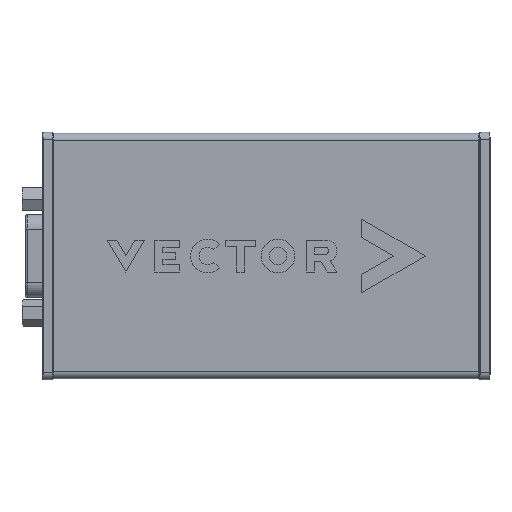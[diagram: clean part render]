
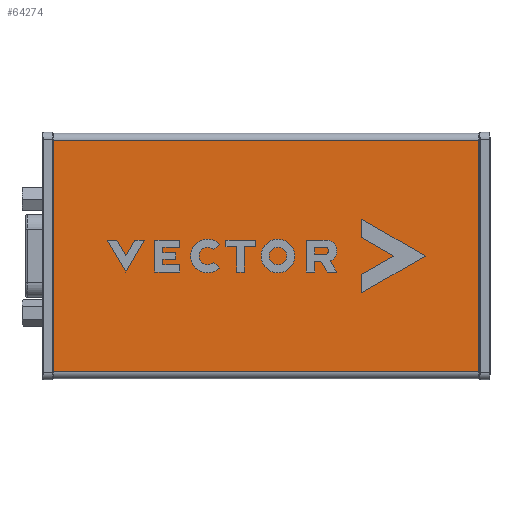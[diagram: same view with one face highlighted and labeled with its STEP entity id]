
A CAD part, left-side view. The second image highlights one B-rep face of the part: STEP entity #64274.
In plain terms, the highlighted planar face has unit normal (-1, 0, 0).
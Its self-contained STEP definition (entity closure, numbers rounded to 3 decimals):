
#3301=PLANE('',#69673);
#6384=FACE_OUTER_BOUND('',#10061,.T.);
#10061=EDGE_LOOP('',(#54466,#54467,#54468,#54469));
#15248=LINE('',#112493,#20803);
#15309=LINE('',#112735,#20864);
#15310=LINE('',#112739,#20865);
#15311=LINE('',#112740,#20866);
#20803=VECTOR('',#84690,10.);
#20864=VECTOR('',#84891,10.);
#20865=VECTOR('',#84896,10.);
#20866=VECTOR('',#84897,10.);
#29313=VERTEX_POINT('',#112490);
#29314=VERTEX_POINT('',#112492);
#29425=VERTEX_POINT('',#112734);
#29426=VERTEX_POINT('',#112738);
#37814=EDGE_CURVE('',#29314,#29313,#15248,.T.);
#37936=EDGE_CURVE('',#29314,#29425,#15309,.T.);
#37938=EDGE_CURVE('',#29426,#29313,#15310,.T.);
#37939=EDGE_CURVE('',#29426,#29425,#15311,.F.);
#54466=ORIENTED_EDGE('',*,*,#37814,.T.);
#54467=ORIENTED_EDGE('',*,*,#37938,.F.);
#54468=ORIENTED_EDGE('',*,*,#37939,.T.);
#54469=ORIENTED_EDGE('',*,*,#37936,.F.);
#64274=ADVANCED_FACE('',(#6384),#3301,.T.);
#69673=AXIS2_PLACEMENT_3D('',#112737,#84894,#84895);
#84690=DIRECTION('',(0.,0.,-1.));
#84891=DIRECTION('',(0.,-1.,0.));
#84894=DIRECTION('center_axis',(-1.,0.,0.));
#84895=DIRECTION('ref_axis',(0.,0.,
1.));
#84896=DIRECTION('',(0.,1.,0.));
#84897=DIRECTION('',(0.,0.,-1.));
#112490=CARTESIAN_POINT('',(-11.5,-6.225,-25.425));
#112492=CARTESIAN_POINT('',(-11.5,-6.225,25.425));
#112493=CARTESIAN_POINT('',(-11.5,-6.225,-13.463));
#112734=CARTESIAN_POINT('',(-11.5,-99.775,25.425));
#112735=CARTESIAN_POINT('',(-11.5,0.,25.425));
#112737=CARTESIAN_POINT('Origin',(-11.5,0.,-26.925));
#112738=CARTESIAN_POINT('',(-11.5,-99.775,-25.425));
#112739=CARTESIAN_POINT('',(-11.5,0.,-25.425));
#112740=CARTESIAN_POINT('',(-11.5,-99.775,-13.463));
